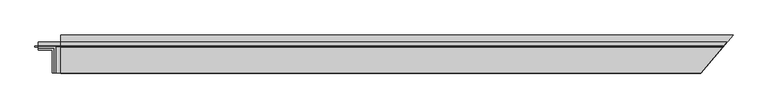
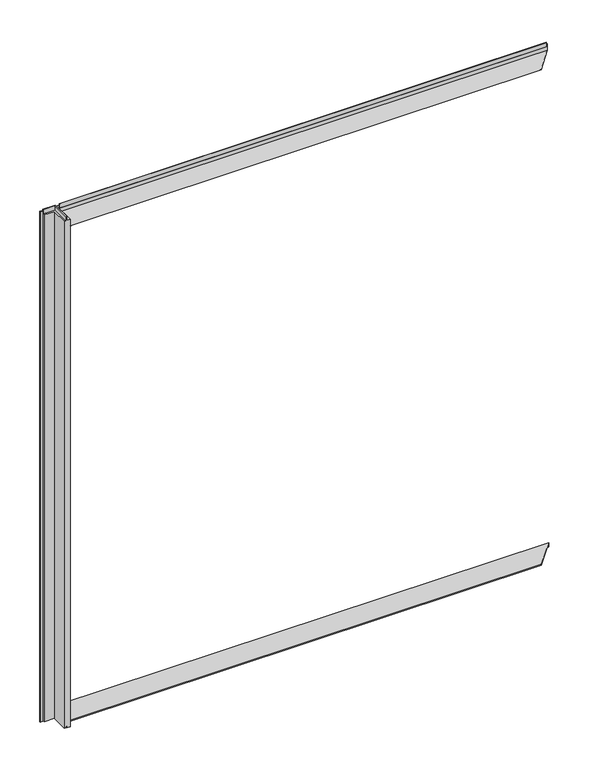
"""IFC4 building model written with IfcOpenShell, lengths in millimetres: plate geometry, Trimo_Qbiss Screen_Wall Opening Trims-HORIZONTAL : HR - B."""

from ifc_helpers import new_model, si_unit, frame, origin, origin_with_axes, place, context, project, spatial, polyline, outline, extrude, faceted_brep, source, transform, mapped, element, save


def plate_fe7791f1(model_context):
    return source(origin(), model_context, "Body", "SolidModel", [
        faceted_brep([(-1780.0, 71.0, 4487.0), (-1780.0, 100.0, 4487.0), (-1780.0, 100.0, 0.0), (-1780.0, 72.0, 0.0), (-1780.0, 72.0, 15.5), (-1780.0, 62.0, 15.5), (-1780.0, 62.0, 7.0), (-1780.0, 50.0, 7.0), (-1780.0, 50.0, 4487.0), (-1780.0, 63.0, 4487.0), (-1780.0, 63.0, 4524.5), (-1780.0, 71.0, 4524.5), (-1674.0, 71.0, 4487.0), (-1674.0, -92.0, 4487.0), (-1645.0, -92.0, 4487.0), (-1645.0, 100.0, 4487.0), (-1645.0, 100.0, 0.0), (-1645.0, -92.0, 0.0), (-1673.0, -92.0, 0.0), (-1673.0, 72.0, 0.0), (-1673.0, 72.0, 15.5), (-1673.0, -92.0, 15.5), (-1683.0, -92.0, 15.5), (-1683.0, 62.0, 15.5), (-1683.0, 62.0, 7.0), (-1683.0, -92.0, 7.0), (-1695.0, -92.0, 7.0), (-1695.0, 50.0, 7.0), (-1695.0, 50.0, 4487.0), (-1695.0, -92.0, 4487.0), (-1682.0, -92.0, 4487.0), (-1682.0, 63.0, 4487.0), (-1682.0, 63.0, 4524.5), (-1682.0, -92.0, 4524.5), (-1674.0, -92.0, 4524.5), (-1674.0, 71.0, 4524.5)], [[[0, 1, 2, 3, 4, 5, 6, 7, 8, 9, 10, 11]], [[1, 0, 12, 13, 14, 15]], [[2, 1, 15, 16]], [[3, 2, 16, 17, 18, 19]], [[4, 3, 19, 20]], [[5, 4, 20, 21, 22, 23]], [[6, 5, 23, 24]], [[7, 6, 24, 25, 26, 27]], [[8, 7, 27, 28]], [[9, 8, 28, 29, 30, 31]], [[10, 9, 31, 32]], [[11, 10, 32, 33, 34, 35]], [[0, 11, 35, 12]], [[13, 34, 33, 30, 29, 26, 25, 22, 21, 18, 17, 14]], [[16, 15, 14, 17]], [[20, 19, 18, 21]], [[24, 23, 22, 25]], [[28, 27, 26, 29]], [[32, 31, 30, 33]], [[12, 35, 34, 13]]]),
        extrude(outline(polyline([(-1783.0, 76.5978162), (-1783.0, 67.8978162), (-1802.0, 67.8978162), (-1802.0, 76.5978162), (-1783.0, 76.5978162)])), origin_with_axes(), (0.0, 0.0, 1.0), 4510.0),
        faceted_brep([(-1643.0, 71.0, 4487.0), (-1643.0, 100.0, 4487.0), (-1643.0, 100.0, 4429.0), (-1643.0, -92.0, 4429.0), (-1643.0, -92.0, 4430.0), (-1643.0, 99.0, 4430.0), (-1643.0, 99.0, 4486.0), (-1643.0, 70.0, 4486.0), (-1643.0, 70.0, 4524.5), (-1643.0, 71.0, 4524.5), (2430.6661107, 71.0, 4524.5), (2430.6661107, 71.0, 4487.0), (2429.8270111, 70.0, 4524.5), (2429.8270111, 70.0, 4486.0), (2454.1609004, 99.0, 4486.0), (2454.1609004, 99.0, 4430.0), (2293.8928708, -92.0, 4430.0), (2293.8928708, -92.0, 4429.0), (2455.0, 100.0, 4429.0), (2455.0, 100.0, 4487.0)], [[[0, 1, 2, 3, 4, 5, 6, 7, 8, 9]], [[0, 9, 10, 11]], [[9, 8, 12, 10]], [[8, 7, 13, 12]], [[7, 6, 14, 13]], [[6, 5, 15, 14]], [[5, 4, 16, 15]], [[4, 3, 17, 16]], [[3, 2, 18, 17]], [[2, 1, 19, 18]], [[1, 0, 11, 19]], [[11, 10, 12, 13, 14, 15, 16, 17, 18, 19]]]),
        faceted_brep([(-1643.0, 138.0, 29.8042278), (-1643.0, -92.0, 49.3568786), (-1643.0, -92.0, 56.3821274), (-1643.0, 145.0, 36.234396), (-1643.0, 145.0, 0.0), (-1643.0, 138.0, 0.0), (2486.885786, 138.0, 0.0), (2486.885786, 138.0, 29.8042278), (2492.7594834, 145.0, 0.0), (2492.7594834, 145.0, 36.234396), (2293.8928708, -92.0, 56.3821274), (2293.8928708, -92.0, 49.3568786)], [[[0, 1, 2, 3, 4, 5]], [[0, 5, 6, 7]], [[5, 4, 8, 6]], [[4, 3, 9, 8]], [[3, 2, 10, 9]], [[2, 1, 11, 10]], [[1, 0, 7, 11]], [[7, 6, 8, 9, 10, 11]]]),
        extrude(outline(polyline([(-1780.0, 71.0), (-1780.0, 76.0), (2434.8616089, 76.0), (2430.6661107, 71.0), (-1780.0, 71.0)])), frame((0.0, 0.0, 4488.0), z_axis=(0.0, 0.0, 1.0), x_axis=(1.0, 0.0, 0.0)), (0.0, 0.0, 1.0), 21.0),
    ])


if __name__ == "__main__":
    model = new_model("IFC4")
    model_context = context("Model", 3, world=origin())
    ifc_project = project(units=[si_unit("LENGTHUNIT", "METRE", prefix="MILLI")], contexts=[model_context])
    site = spatial("IfcSite", under=ifc_project)
    building = spatial("IfcBuilding", under=site)
    placement = place(None, origin())
    plate_shape = plate_fe7791f1(model_context)
    element("IfcPlate", 1, ObjectType="Trimo_Qbiss Screen_Wall Opening Trims-HORIZONTAL : HR - B", at=placement, inside=building, context=model_context, shape_type="MappedRepresentation", body=[
        mapped(plate_shape, transform((0.0, 0.0, 0.0), x_axis=(1.0, 0.0, 0.0), y_axis=(0.0, 1.0, 0.0), z_axis=(0.0, 0.0, 1.0))),
    ])
    save(model, "model.ifc")
